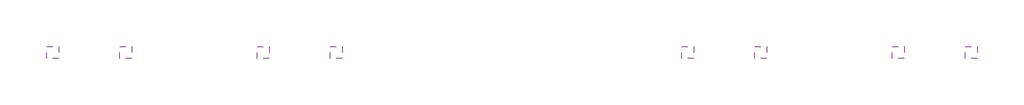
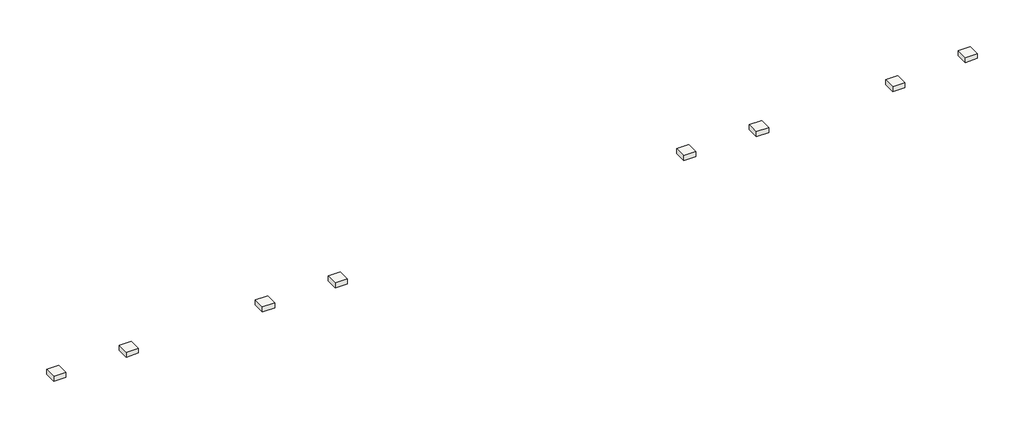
# One storey: 8 slabs.
"""IFC4 building model written with IfcOpenShell, lengths in millimetres."""

from ifc_helpers import new_model, si_unit, origin, place, context, project, spatial, transform, mapped, element, save
from components import base_rectangulaire_4c619bbc

model = new_model("IFC4")

# Units and contexts
model_context = context("Model", 3, world=origin())
ifc_project = project(units=[si_unit("LENGTHUNIT", "METRE", prefix="MILLI")], contexts=[model_context])

# Site, building, storey
site = spatial("IfcSite", under=ifc_project)
building = spatial("IfcBuilding", under=site)
storey = spatial("IfcBuildingStorey", under=building, Name="Niv Ssol1", Elevation=-2750.0)

# Slabs
placement = place(None, origin())
base_rectangulaire_shape = base_rectangulaire_4c619bbc(model_context)
element("IfcSlab", 1, ObjectType="Base rectangulaire : FREYS 70x70x30 C25/30", at=placement, inside=storey, context=model_context, shape_type="MappedRepresentation", body=[
    mapped(base_rectangulaire_shape, transform((-10755.3743903, 8521.3428728, -690.0), x_axis=(1.0, 0.0, 0.0), y_axis=(0.0, 1.0, 0.0), z_axis=(0.0, 0.0, 1.0))),
])
element("IfcSlab", 2, ObjectType="Base rectangulaire : FREYS 70x70x30 C25/30", at=placement, inside=storey, context=model_context, shape_type="MappedRepresentation", body=[
    mapped(base_rectangulaire_shape, transform((-6585.4687193, 8521.3428728, -690.0), x_axis=(1.0, 0.0, 0.0), y_axis=(0.0, 1.0, 0.0), z_axis=(0.0, 0.0, 1.0))),
])
element("IfcSlab", 3, ObjectType="Base rectangulaire : FREYS 70x70x30 C25/30", at=placement, inside=storey, context=model_context, shape_type="MappedRepresentation", body=[
    mapped(base_rectangulaire_shape, transform((1244.6256097, 8521.3428728, -690.0), x_axis=(1.0, 0.0, 0.0), y_axis=(0.0, 1.0, 0.0), z_axis=(0.0, 0.0, 1.0))),
])
element("IfcSlab", 4, ObjectType="Base rectangulaire : FREYS 70x70x30 C25/30", at=placement, inside=storey, context=model_context, shape_type="MappedRepresentation", body=[
    mapped(base_rectangulaire_shape, transform((5414.5312807, 8521.3428728, -690.0), x_axis=(1.0, 0.0, 0.0), y_axis=(0.0, 1.0, 0.0), z_axis=(0.0, 0.0, 1.0))),
])
element("IfcSlab", 5, ObjectType="Base rectangulaire : FREYS 70x70x30 C25/30", at=placement, inside=storey, context=model_context, shape_type="MappedRepresentation", body=[
    mapped(base_rectangulaire_shape, transform((25444.6256097, 8521.3428728, 40.0), x_axis=(1.0, 0.0, 0.0), y_axis=(0.0, 1.0, 0.0), z_axis=(0.0, 0.0, 1.0))),
])
element("IfcSlab", 6, ObjectType="Base rectangulaire : FREYS 70x70x30 C25/30", at=placement, inside=storey, context=model_context, shape_type="MappedRepresentation", body=[
    mapped(base_rectangulaire_shape, transform((29614.5312807, 8521.3428728, 40.0), x_axis=(1.0, 0.0, 0.0), y_axis=(0.0, 1.0, 0.0), z_axis=(0.0, 0.0, 1.0))),
])
element("IfcSlab", 7, ObjectType="Base rectangulaire : FREYS 70x70x30 C25/30", at=placement, inside=storey, context=model_context, shape_type="MappedRepresentation", body=[
    mapped(base_rectangulaire_shape, transform((37444.6256097, 8521.3428728, 40.0), x_axis=(1.0, 0.0, 0.0), y_axis=(0.0, 1.0, 0.0), z_axis=(0.0, 0.0, 1.0))),
])
element("IfcSlab", 8, ObjectType="Base rectangulaire : FREYS 70x70x30 C25/30", at=placement, inside=storey, context=model_context, shape_type="MappedRepresentation", body=[
    mapped(base_rectangulaire_shape, transform((41614.5312807, 8521.3428728, 350.0), x_axis=(1.0, 0.0, 0.0), y_axis=(0.0, 1.0, 0.0), z_axis=(0.0, 0.0, 1.0))),
])

save(model, "model.ifc")
